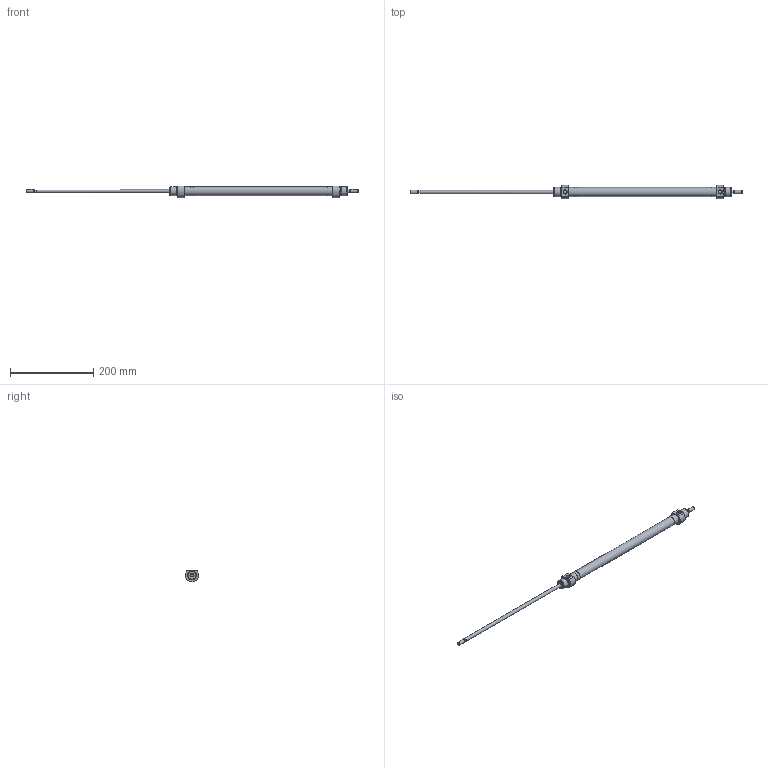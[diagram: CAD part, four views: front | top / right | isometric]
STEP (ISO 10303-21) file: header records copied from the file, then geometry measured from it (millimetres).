
FILE_DESCRIPTION( ( 'STEP AP203' ), '1' );
FILE_NAME( '//expscmdclustefs.cadenas.external/client_exchange/iodir/jobs/output/wkb68462913_no0/STEP/M101-020-0320--__0__2_03.stp', ' ', ( ' ' ), ( ' ' ), 'PSStep 15.0.47', 'PARTsolutions', ' ' );
FILE_SCHEMA( ( 'CONFIG_CONTROL_DESIGN' ) );
Length unit declared in the file: millimetre
Products named in the file (3): M101-020-0320-- [0]; HI_M101-020-0320---[0]-z; HI_M101-020-0320---[0]-k
Assembly tree (2 placements, depth 2):
  M101-020-0320-- [0]
    HI_M101-020-0320---[0]-z
    HI_M101-020-0320---[0]-k
Bounding box: 796 x 32 x 28 mm (x, y, z)
Volume: 101358.1 mm3; surface area: 76900.3 mm2
Topology: 2 solids, 2 shells, 65 faces, 129 edges, 80 vertices
Faces by surface type: plane 26, cylinder 23, cone 14, torus 2
Full cylindrical faces by diameter (mm): 6.466 x2, 8 x6, 8.566 x2, 20 x2, 20.16 x4, 21.6 x1, 22 x4
Entity records: 1702 total; most frequent: CARTESIAN_POINT 356, DIRECTION 280, ORIENTED_EDGE 184, AXIS2_PLACEMENT_3D 128, EDGE_LOOP 116, EDGE_CURVE 92, FACE_OUTER_BOUND 88, VERTEX_POINT 76
